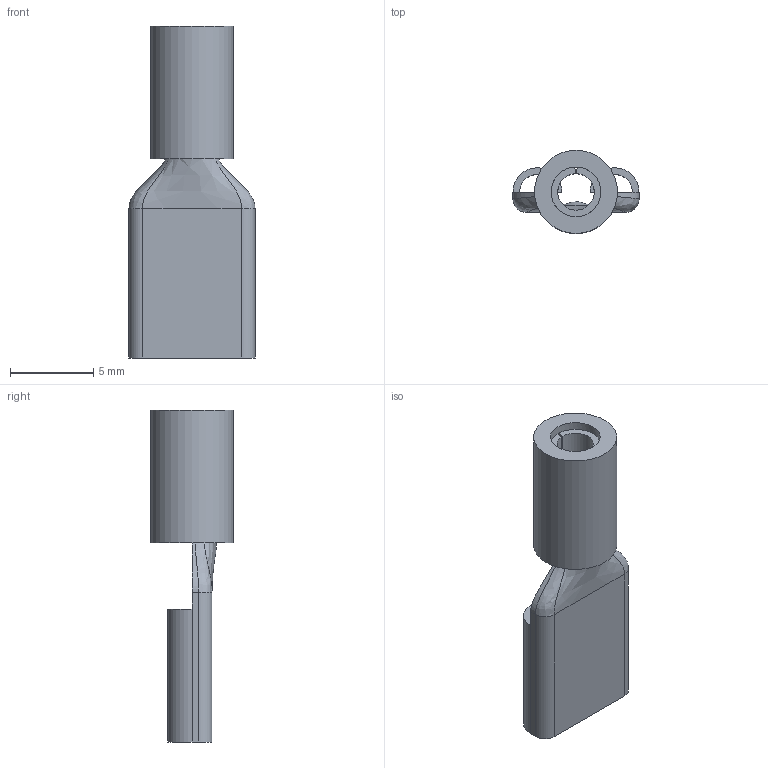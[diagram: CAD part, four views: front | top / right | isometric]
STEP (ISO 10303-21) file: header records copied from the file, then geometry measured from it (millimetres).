
FILE_DESCRIPTION((''),'2;1');
FILE_NAME('Q:\999\Prinzipteile\Elektro\Flachsteckhuelse-RF-F608.stp','2011-05-05T17:50:04',('Roland'),(''),'Autodesk Inventor 2010','Autodesk Inventor 2010','');
FILE_SCHEMA(('AUTOMOTIVE_DESIGN { 1 0 10303 214 1 1 1 1 }'));
Length unit declared in the file: millimetre
Products named in the file (1): Flachsteckhuelse RF-F608
Bounding box: 7.6 x 5 x 20 mm (x, y, z)
Volume: 189 mm3; surface area: 566.3 mm2
Topology: 1 solids, 1 shells, 44 faces, 118 edges, 76 vertices
Faces by surface type: plane 20, cylinder 13, bspline 10, cone 1
Full cylindrical faces by diameter (mm): 3 x1, 5 x1
Entity records: 1809 total; most frequent: CARTESIAN_POINT 741, ORIENTED_EDGE 224, DIRECTION 196, EDGE_CURVE 112, VERTEX_POINT 74, AXIS2_PLACEMENT_3D 70, VECTOR 56, LINE 56
